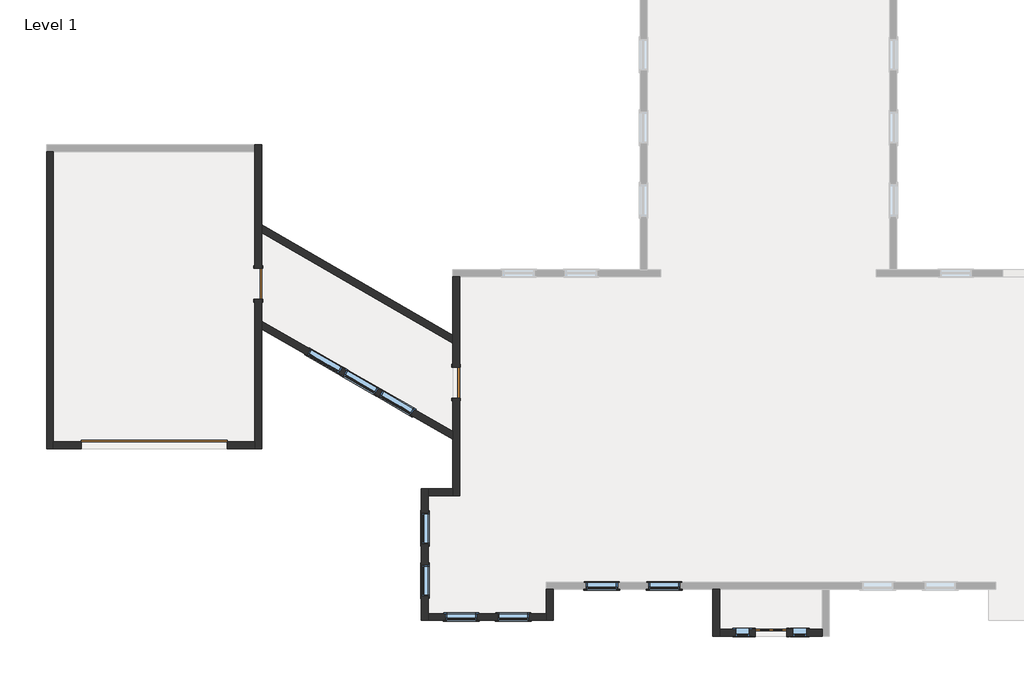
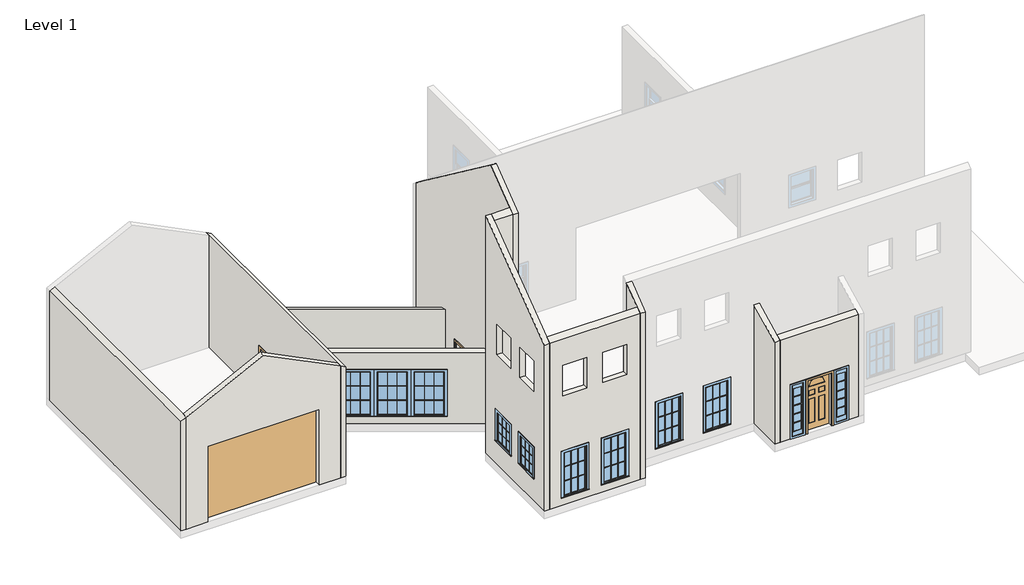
# One storey, part 1 of 2: 12 walls, 11 windows, 4 doors.
"""IFC4 building model written with IfcOpenShell, lengths in millimetres."""

from ifc_helpers import new_model, si_unit, frame, origin, place, context, project, spatial, polyline, outline, extrude, faceted_brep, transform, mapped, element, save
from components import overhead_sectional_14_x_10_8c0ee61c, door_b1a02c97, door_4f2f89b6, casement_3x3_with_trim_8b323df3, casement_3x3_with_trim_29c06734, casement_3x3_with_trim_7d330b5e, window_b28cb548, window_fc224a87

model = new_model("IFC4")

# Units and contexts
model_context = context("Model", 3, world=origin())
ifc_project = project(units=[si_unit("LENGTHUNIT", "METRE", prefix="MILLI")], contexts=[model_context])

# Site, building, storey
site = spatial("IfcSite", under=ifc_project)
building = spatial("IfcBuilding", under=site)
storey = spatial("IfcBuildingStorey", under=building, Name="Level 1", Elevation=0.0)

# Doors
placement = place(None, origin())
overhead_sectional_14_x_10_shape = overhead_sectional_14_x_10_8c0ee61c(model_context)
element("IfcDoor", 1, ObjectType="Overhead Sectional : 14 x 10", at=placement, inside=storey, context=model_context, shape_type="MappedRepresentation", body=[
    mapped(overhead_sectional_14_x_10_shape, transform((-185224.9354666, 11098.6757393, 0.0), x_axis=(-1.0, 0.0, 0.0), y_axis=(0.0, -1.0, 0.0), z_axis=(0.0, 0.0, 1.0))),
])
door_shape = door_b1a02c97(model_context)
element("IfcDoor", 2, ObjectType="Sample Decorative 2 : 36\" x 84\"", at=placement, inside=storey, context=model_context, shape_type="MappedRepresentation", body=[
    mapped(door_shape, transform((-167165.5354666, 5612.2757393, 0.0), x_axis=(1.0, 0.0, 0.0), y_axis=(0.0, 1.0, 0.0), z_axis=(0.0, 0.0, 1.0))),
])
door_2_shape = door_4f2f89b6(model_context)
element("IfcDoor", 3, ObjectType="Sgl Flush : 36\" x 80\"", at=placement, inside=storey, context=model_context, shape_type="MappedRepresentation", body=[
    mapped(door_2_shape, transform((-176385.7354666, 12927.4757393, 0.0), x_axis=(0.0, -1.0, 0.0), y_axis=(1.0, 0.0, 0.0), z_axis=(0.0, 0.0, 1.0))),
])
element("IfcDoor", 4, ObjectType="Sgl Flush : 36\" x 80\"", at=placement, inside=storey, context=model_context, shape_type="MappedRepresentation", body=[
    mapped(door_2_shape, transform((-182176.9354666, 15823.0757393, 0.0), x_axis=(0.0, -1.0, 0.0), y_axis=(1.0, 0.0, 0.0), z_axis=(0.0, 0.0, 1.0))),
])

# Walls
element("IfcWall", 5, ObjectType="Generic - 8\"", at=placement, inside=storey, context=model_context, shape_type="Brep", body=[
    faceted_brep([(-176284.1354666, 9625.4757393, 0.0), (-176284.1354666, 12470.2757393, 0.0), (-176284.1354666, 12470.2757393, 2032.0), (-176284.1354666, 13384.6757393, 2032.0), (-176284.1354666, 13384.6757393, 0.0), (-176284.1354666, 16026.2757393, 0.0), (-176284.1354666, 16026.2757393, 6858.0), (-176284.1354666, 11098.6757393, 10553.7), (-176284.1354666, 9625.4757393, 9448.8), (-176487.3354666, 12470.2757393, 2032.0), (-176487.3354666, 12470.2757393, 0.0), (-176487.3354666, 11507.0303086, 0.0), (-176487.3354666, 11272.3951592, 0.0), (-176487.3354666, 9828.6757393, 0.0), (-176487.3354666, 9625.4757393, 0.0), (-176487.3354666, 9625.4757393, 9448.8), (-176487.3354666, 9828.6757393, 9601.2), (-176487.3354666, 11098.6757393, 10553.7), (-176487.3354666, 16026.2757393, 6858.0), (-176487.3354666, 16026.2757393, 0.0), (-176487.3354666, 14322.6521013, 0.0), (-176487.3354666, 14088.0169519, 0.0), (-176487.3354666, 13384.6757393, 0.0), (-176487.3354666, 13384.6757393, 2032.0)], [[[0, 1, 2, 3, 4, 5, 6, 7, 8]], [[9, 10, 11, 12, 13, 14, 15, 16, 17, 18, 19, 20, 21, 22, 23]], [[14, 13, 12, 11, 10, 1, 0]], [[22, 21, 20, 19, 5, 4]], [[6, 5, 19, 18]], [[0, 8, 15, 14]], [[8, 7, 17, 16, 15]], [[7, 6, 18, 17]], [[2, 1, 10, 9]], [[3, 2, 9, 23]], [[4, 3, 23, 22]]]),
])
element("IfcWall", 6, ObjectType="Generic - 8\"", at=placement, inside=storey, context=model_context, shape_type="Brep", body=[
    faceted_brep([(-177198.5354666, 5967.8757393, 0.0), (-177198.5354666, 6171.0757393, 0.0), (-177198.5354666, 9625.4757393, 0.0), (-177198.5354666, 9828.6757393, 0.0), (-177198.5354666, 9828.6757393, 9601.2), (-177198.5354666, 9625.4757393, 9448.8), (-177198.5354666, 6171.0757393, 6858.0), (-177198.5354666, 5967.8757393, 6705.6), (-177198.5354666, 9117.4757393, 2133.6), (-177198.5354666, 9117.4757393, 914.4), (-177198.5354666, 8203.0757393, 914.4), (-177198.5354666, 8203.0757393, 2133.6), (-177198.5354666, 7593.4757393, 2133.6), (-177198.5354666, 7593.4757393, 914.4), (-177198.5354666, 6679.0757393, 914.4), (-177198.5354666, 6679.0757393, 2133.6), (-177198.5354666, 9117.4757393, 5638.8), (-177198.5354666, 9117.4757393, 4419.6), (-177198.5354666, 8203.0757393, 4419.6), (-177198.5354666, 8203.0757393, 5638.8), (-177198.5354666, 7593.4757393, 5638.8), (-177198.5354666, 7593.4757393, 4419.6), (-177198.5354666, 6679.0757393, 4419.6), (-177198.5354666, 6679.0757393, 5638.8), (-177401.7354666, 5967.8757393, 0.0), (-177401.7354666, 5967.8757393, 6705.6), (-177401.7354666, 9828.6757393, 9601.2), (-177401.7354666, 9828.6757393, 0.0), (-177401.7354666, 9117.4757393, 2133.6), (-177401.7354666, 8203.0757393, 2133.6), (-177401.7354666, 8203.0757393, 914.4), (-177401.7354666, 9117.4757393, 914.4), (-177401.7354666, 7593.4757393, 2133.6), (-177401.7354666, 6679.0757393, 2133.6), (-177401.7354666, 6679.0757393, 914.4), (-177401.7354666, 7593.4757393, 914.4), (-177401.7354666, 9117.4757393, 5638.8), (-177401.7354666, 8203.0757393, 5638.8), (-177401.7354666, 8203.0757393, 4419.6), (-177401.7354666, 9117.4757393, 4419.6), (-177401.7354666, 7593.4757393, 5638.8), (-177401.7354666, 6679.0757393, 5638.8), (-177401.7354666, 6679.0757393, 4419.6), (-177401.7354666, 7593.4757393, 4419.6)], [[[0, 1, 2, 3, 4, 5, 6, 7], [8, 9, 10, 11], [12, 13, 14, 15], [16, 17, 18, 19], [20, 21, 22, 23]], [[24, 25, 26, 27], [28, 29, 30, 31], [32, 33, 34, 35], [36, 37, 38, 39], [40, 41, 42, 43]], [[3, 2, 1, 0, 24, 27]], [[4, 3, 27, 26]], [[0, 7, 25, 24]], [[7, 6, 5, 4, 26, 25]], [[9, 8, 28, 31]], [[10, 9, 31, 30]], [[11, 10, 30, 29]], [[8, 11, 29, 28]], [[13, 12, 32, 35]], [[14, 13, 35, 34]], [[15, 14, 34, 33]], [[12, 15, 33, 32]], [[17, 16, 36, 39]], [[18, 17, 39, 38]], [[19, 18, 38, 37]], [[16, 19, 37, 36]], [[21, 20, 40, 43]], [[22, 21, 43, 42]], [[23, 22, 42, 41]], [[20, 23, 41, 40]]]),
])
element("IfcWall", 7, ObjectType="Generic - 8\"", at=placement, inside=storey, context=model_context, shape_type="SweptSolid", body=[
    extrude(outline(polyline([(9625.4757393, 0.0), (9625.4757393, 9448.8), (9828.6757393, 9601.2), (9828.6757393, 0.0), (9625.4757393, 0.0)])), frame((-177198.5354666, 0.0, 0.0), z_axis=(1.0, 0.0, 0.0), x_axis=(0.0, 1.0, 0.0)), (0.0, 0.0, 1.0), 711.2),
])
element("IfcWall", 8, ObjectType="Generic - 8\"", at=placement, inside=storey, context=model_context, shape_type="Brep", body=[
    faceted_brep([(-173744.1354666, 6882.2757393, 0.0), (-173744.1354666, 6171.0757393, 0.0), (-173744.1354666, 5967.8757393, 0.0), (-173744.1354666, 5967.8757393, 6705.6), (-173744.1354666, 6171.0757393, 6858.0), (-173744.1354666, 6882.2757393, 7391.4), (-173540.9354666, 6882.2757393, 0.0), (-173540.9354666, 6882.2757393, 7391.4), (-173540.9354666, 5967.8757393, 6705.6), (-173540.9354666, 5967.8757393, 0.0)], [[[0, 1, 2, 3, 4, 5]], [[6, 7, 8, 9]], [[2, 1, 0, 6, 9]], [[3, 2, 9, 8]], [[0, 5, 7, 6]], [[5, 4, 3, 8, 7]]]),
])
element("IfcWall", 9, ObjectType="Generic - 8\"", at=placement, inside=storey, context=model_context, shape_type="Brep", body=[
    faceted_brep([(-173744.1354666, 6171.0757393, 0.0), (-177198.5354666, 6171.0757393, 0.0), (-177198.5354666, 6171.0757393, 6858.0), (-173744.1354666, 6171.0757393, 6858.0), (-175166.5354666, 6171.0757393, 5638.8), (-175166.5354666, 6171.0757393, 4419.6), (-174252.1354666, 6171.0757393, 4419.6), (-174252.1354666, 6171.0757393, 5638.8), (-176690.5354666, 6171.0757393, 5638.8), (-176690.5354666, 6171.0757393, 4419.6), (-175776.1354666, 6171.0757393, 4419.6), (-175776.1354666, 6171.0757393, 5638.8), (-175166.5354666, 6171.0757393, 2133.6), (-175166.5354666, 6171.0757393, 304.8), (-174252.1354666, 6171.0757393, 304.8), (-174252.1354666, 6171.0757393, 2133.6), (-176690.5354666, 6171.0757393, 2133.6), (-176690.5354666, 6171.0757393, 304.8), (-175776.1354666, 6171.0757393, 304.8), (-175776.1354666, 6171.0757393, 2133.6), (-173744.1354666, 5967.8757393, 0.0), (-173744.1354666, 5967.8757393, 6705.6), (-177198.5354666, 5967.8757393, 6705.6), (-177198.5354666, 5967.8757393, 0.0), (-175166.5354666, 5967.8757393, 5638.8), (-174252.1354666, 5967.8757393, 5638.8), (-174252.1354666, 5967.8757393, 4419.6), (-175166.5354666, 5967.8757393, 4419.6), (-176690.5354666, 5967.8757393, 5638.8), (-175776.1354666, 5967.8757393, 5638.8), (-175776.1354666, 5967.8757393, 4419.6), (-176690.5354666, 5967.8757393, 4419.6), (-175166.5354666, 5967.8757393, 2133.6), (-174252.1354666, 5967.8757393, 2133.6), (-174252.1354666, 5967.8757393, 304.8), (-175166.5354666, 5967.8757393, 304.8), (-176690.5354666, 5967.8757393, 2133.6), (-175776.1354666, 5967.8757393, 2133.6), (-175776.1354666, 5967.8757393, 304.8), (-176690.5354666, 5967.8757393, 304.8)], [[[0, 1, 2, 3], [4, 5, 6, 7], [8, 9, 10, 11], [12, 13, 14, 15], [16, 17, 18, 19]], [[20, 21, 22, 23], [24, 25, 26, 27], [28, 29, 30, 31], [32, 33, 34, 35], [36, 37, 38, 39]], [[1, 0, 20, 23]], [[0, 3, 21, 20]], [[2, 1, 23, 22]], [[3, 2, 22, 21]], [[5, 4, 24, 27]], [[6, 5, 27, 26]], [[7, 6, 26, 25]], [[4, 7, 25, 24]], [[9, 8, 28, 31]], [[10, 9, 31, 30]], [[11, 10, 30, 29]], [[8, 11, 29, 28]], [[13, 12, 32, 35]], [[14, 13, 35, 34]], [[15, 14, 34, 33]], [[12, 15, 33, 32]], [[17, 16, 36, 39]], [[18, 17, 39, 38]], [[19, 18, 38, 37]], [[16, 19, 37, 36]]]),
])
element("IfcWall", 10, ObjectType="Generic - 8\"", at=placement, inside=storey, context=model_context, shape_type="Brep", body=[
    faceted_brep([(-168867.3354666, 6882.2757393, 0.0), (-168867.3354666, 5510.6757393, 0.0), (-168867.3354666, 5510.6757393, 4114.8), (-168867.3354666, 6882.2757393, 4800.6), (-168664.1354666, 6882.2757393, 0.0), (-168664.1354666, 6882.2757393, 4800.6), (-168664.1354666, 5713.8757393, 4216.4), (-168664.1354666, 5510.6757393, 4114.8), (-168664.1354666, 5510.6757393, 0.0), (-168664.1354666, 5713.8757393, 0.0)], [[[0, 1, 2, 3]], [[4, 5, 6, 7, 8, 9]], [[1, 0, 4, 9, 8]], [[2, 1, 8, 7]], [[0, 3, 5, 4]], [[3, 2, 7, 6, 5]]]),
])
element("IfcWall", 11, ObjectType="Generic - 8\"", at=placement, inside=storey, context=model_context, shape_type="Brep", body=[
    faceted_brep([(-166708.3354666, 5510.6757393, 0.0), (-166530.5354666, 5510.6757393, 0.0), (-166530.5354666, 5510.6757393, 2133.6), (-166124.1354666, 5510.6757393, 2133.6), (-166124.1354666, 5510.6757393, 0.0), (-165666.9354666, 5510.6757393, 0.0), (-165666.9354666, 5510.6757393, 4114.8), (-168664.1354666, 5510.6757393, 4114.8), (-168664.1354666, 5510.6757393, 0.0), (-168206.9354666, 5510.6757393, 0.0), (-168206.9354666, 5510.6757393, 2133.6), (-167800.5354666, 5510.6757393, 2133.6), (-167800.5354666, 5510.6757393, 0.0), (-167622.7354666, 5510.6757393, 0.0), (-167622.7354666, 5510.6757393, 2133.6), (-166708.3354666, 5510.6757393, 2133.6), (-166530.5354666, 5713.8757393, 2133.6), (-166530.5354666, 5713.8757393, 0.0), (-166708.3354666, 5713.8757393, 0.0), (-166708.3354666, 5713.8757393, 2133.6), (-167622.7354666, 5713.8757393, 2133.6), (-167622.7354666, 5713.8757393, 0.0), (-167800.5354666, 5713.8757393, 0.0), (-167800.5354666, 5713.8757393, 2133.6), (-168206.9354666, 5713.8757393, 2133.6), (-168206.9354666, 5713.8757393, 0.0), (-168664.1354666, 5713.8757393, 0.0), (-168664.1354666, 5713.8757393, 4216.4), (-165666.9354666, 5713.8757393, 4216.4), (-165666.9354666, 5713.8757393, 0.0), (-166124.1354666, 5713.8757393, 0.0), (-166124.1354666, 5713.8757393, 2133.6)], [[[0, 1, 2, 3, 4, 5, 6, 7, 8, 9, 10, 11, 12, 13, 14, 15]], [[16, 17, 18, 19, 20, 21, 22, 23, 24, 25, 26, 27, 28, 29, 30, 31]], [[18, 17, 1, 0]], [[13, 12, 22, 21]], [[9, 8, 26, 25]], [[30, 29, 5, 4]], [[8, 7, 27, 26]], [[6, 5, 29, 28]], [[7, 6, 28, 27]], [[19, 18, 0, 15]], [[20, 19, 15, 14]], [[21, 20, 14, 13]], [[23, 22, 12, 11]], [[24, 23, 11, 10]], [[25, 24, 10, 9]], [[2, 1, 17, 16]], [[3, 2, 16, 31]], [[4, 3, 31, 30]]]),
])
element("IfcWall", 12, ObjectType="Generic - 8\"", at=placement, inside=storey, context=model_context, shape_type="Brep", body=[
    faceted_brep([(-188171.3354666, 10997.0757393, 0.0), (-188171.3354666, 11200.2757393, 0.0), (-188171.3354666, 19683.8757393, 0.0), (-188171.3354666, 19683.8757393, 4521.2), (-188171.3354666, 11200.2757393, 4521.2), (-188171.3354666, 10997.0757393, 4521.2), (-188374.5354666, 10997.0757393, 0.0), (-188374.5354666, 10997.0757393, 4419.6), (-188374.5354666, 19683.8757393, 4419.6), (-188374.5354666, 19683.8757393, 0.0)], [[[0, 1, 2, 3, 4, 5]], [[6, 7, 8, 9]], [[2, 1, 0, 6, 9]], [[0, 5, 7, 6]], [[3, 2, 9, 8]], [[5, 4, 3, 8, 7]]]),
])
element("IfcWall", 13, ObjectType="Generic - 8\"", at=placement, inside=storey, context=model_context, shape_type="SweptSolid", body=[
    extrude(outline(polyline([(0.0, -188171.3354666), (0.0, -187358.5354666), (3048.0, -187358.5354666), (3048.0, -183091.3354666), (0.0, -183091.3354666), (0.0, -182278.5354666), (4521.2, -182278.5354666), (5994.4, -185224.9354666), (4521.2, -188171.3354666), (0.0, -188171.3354666)])), frame((0.0, 10997.0757393, 0.0), z_axis=(0.0, 1.0, 0.0), x_axis=(0.0, 0.0, 1.0)), (0.0, 0.0, 1.0), 203.2),
])
element("IfcWall", 14, ObjectType="Generic - 8\"", at=placement, inside=storey, context=model_context, shape_type="Brep", body=[
    faceted_brep([(-182278.5354666, 15365.8757393, 2032.0), (-182278.5354666, 15365.8757393, 0.0), (-182278.5354666, 11200.2757393, 0.0), (-182278.5354666, 10997.0757393, 0.0), (-182278.5354666, 10997.0757393, 4521.2), (-182278.5354666, 11200.2757393, 4521.2), (-182278.5354666, 19683.8757393, 4521.2), (-182278.5354666, 19887.0757393, 4521.2), (-182278.5354666, 19887.0757393, 0.0), (-182278.5354666, 19683.8757393, 0.0), (-182278.5354666, 16280.2757393, 0.0), (-182278.5354666, 16280.2757393, 2032.0), (-182075.3354666, 10997.0757393, 0.0), (-182075.3354666, 14498.6284634, 0.0), (-182075.3354666, 14733.2636128, 0.0), (-182075.3354666, 15365.8757393, 0.0), (-182075.3354666, 15365.8757393, 2032.0), (-182075.3354666, 16280.2757393, 2032.0), (-182075.3354666, 16280.2757393, 0.0), (-182075.3354666, 17314.2502562, 0.0), (-182075.3354666, 17548.8854056, 0.0), (-182075.3354666, 19887.0757393, 0.0), (-182075.3354666, 19887.0757393, 4419.6), (-182075.3354666, 10997.0757393, 4419.6)], [[[0, 1, 2, 3, 4, 5, 6, 7, 8, 9, 10, 11]], [[12, 13, 14, 15, 16, 17, 18, 19, 20, 21, 22, 23]], [[3, 2, 1, 15, 14, 13, 12]], [[10, 9, 8, 21, 20, 19, 18]], [[8, 7, 22, 21]], [[4, 3, 12, 23]], [[7, 6, 5, 4, 23, 22]], [[16, 15, 1, 0]], [[17, 16, 0, 11]], [[18, 17, 11, 10]]]),
])
element("IfcWall", 15, ObjectType="Generic - 8\"", at=placement, inside=storey, context=model_context, shape_type="Brep", body=[
    faceted_brep([(-176487.3354666, 14322.6521013, 0.0), (-182075.3354666, 17548.8854056, 0.0), (-182075.3354666, 17548.8854056, 2850.8499433), (-176487.3354666, 14322.6521013, 2850.8499433), (-176487.3354666, 14088.0169519, 0.0), (-176487.3354666, 14088.0169519, 2903.1013718), (-182075.3354666, 17314.2502562, 2903.1013718), (-182075.3354666, 17314.2502562, 0.0)], [[[0, 1, 2, 3]], [[4, 5, 6, 7]], [[1, 0, 4, 7]], [[0, 3, 5, 4]], [[2, 1, 7, 6]], [[3, 2, 6, 5]]]),
])
element("IfcWall", 16, ObjectType="Generic - 8\"", at=placement, inside=storey, context=model_context, shape_type="Brep", body=[
    faceted_brep([(-176487.3354666, 11507.0303086, 0.0), (-182075.3354666, 14733.2636128, 0.0), (-182075.3354666, 14733.2636128, 2903.1013718), (-176487.3354666, 11507.0303086, 2903.1013718), (-178535.1154909, 12689.3166568, 2133.6), (-178535.1154909, 12689.3166568, 304.8), (-177611.2395902, 12155.9166568, 304.8), (-177611.2395902, 12155.9166568, 2133.6), (-179590.9736632, 13298.9166568, 2133.6), (-179590.9736632, 13298.9166568, 304.8), (-178667.0977625, 12765.5166568, 304.8), (-178667.0977625, 12765.5166568, 2133.6), (-180646.8318355, 13908.5166568, 2133.6), (-180646.8318355, 13908.5166568, 304.8), (-179722.9559347, 13375.1166568, 304.8), (-179722.9559347, 13375.1166568, 2133.6), (-176487.3354666, 11272.3951592, 0.0), (-176487.3354666, 11272.3951592, 2850.8499433), (-182075.3354666, 14498.6284634, 2850.8499433), (-182075.3354666, 14498.6284634, 0.0), (-178636.7154909, 12513.3402948, 2133.6), (-177712.8395902, 11979.9402948, 2133.6), (-177712.8395902, 11979.9402948, 304.8), (-178636.7154909, 12513.3402948, 304.8), (-179692.5736632, 13122.9402948, 2133.6), (-178768.6977625, 12589.5402948, 2133.6), (-178768.6977625, 12589.5402948, 304.8), (-179692.5736632, 13122.9402948, 304.8), (-180748.4318355, 13732.5402948, 2133.6), (-179824.5559347, 13199.1402948, 2133.6), (-179824.5559347, 13199.1402948, 304.8), (-180748.4318355, 13732.5402948, 304.8)], [[[0, 1, 2, 3], [4, 5, 6, 7], [8, 9, 10, 11], [12, 13, 14, 15]], [[16, 17, 18, 19], [20, 21, 22, 23], [24, 25, 26, 27], [28, 29, 30, 31]], [[1, 0, 16, 19]], [[0, 3, 17, 16]], [[2, 1, 19, 18]], [[3, 2, 18, 17]], [[5, 4, 20, 23]], [[6, 5, 23, 22]], [[7, 6, 22, 21]], [[4, 7, 21, 20]], [[9, 8, 24, 27]], [[10, 9, 27, 26]], [[11, 10, 26, 25]], [[8, 11, 25, 24]], [[13, 12, 28, 31]], [[14, 13, 31, 30]], [[15, 14, 30, 29]], [[12, 15, 29, 28]]]),
])

# Windows
casement_3x3_with_trim_shape = casement_3x3_with_trim_8b323df3(model_context)
element("IfcWindow", 17, ObjectType="Casement 3x3 with Trim : 36\"w x 72\"h", at=placement, inside=storey, context=model_context, shape_type="MappedRepresentation", body=[
    mapped(casement_3x3_with_trim_shape, transform((-176233.3354666, 6069.4757393, 0.0), x_axis=(-1.0, 0.0, 0.0), y_axis=(0.0, -1.0, 0.0), z_axis=(0.0, 0.0, 1.0))),
])
element("IfcWindow", 18, ObjectType="Casement 3x3 with Trim : 36\"w x 72\"h", at=placement, inside=storey, context=model_context, shape_type="MappedRepresentation", body=[
    mapped(casement_3x3_with_trim_shape, transform((-174709.3354666, 6069.4757393, 0.0), x_axis=(-1.0, 0.0, 0.0), y_axis=(0.0, -1.0, 0.0), z_axis=(0.0, 0.0, 1.0))),
])
element("IfcWindow", 19, ObjectType="Casement 3x3 with Trim : 36\"w x 72\"h", at=placement, inside=storey, context=model_context, shape_type="MappedRepresentation", body=[
    mapped(casement_3x3_with_trim_shape, transform((-172118.5354666, 6983.8757393, 0.0), x_axis=(-1.0, 0.0, 0.0), y_axis=(0.0, -1.0, 0.0), z_axis=(0.0, 0.0, 1.0))),
])
element("IfcWindow", 20, ObjectType="Casement 3x3 with Trim : 36\"w x 72\"h", at=placement, inside=storey, context=model_context, shape_type="MappedRepresentation", body=[
    mapped(casement_3x3_with_trim_shape, transform((-170289.7354666, 6983.8757393, 0.0), x_axis=(-1.0, 0.0, 0.0), y_axis=(0.0, -1.0, 0.0), z_axis=(0.0, 0.0, 1.0))),
])
casement_3x3_with_trim_2_shape = casement_3x3_with_trim_29c06734(model_context)
element("IfcWindow", 21, ObjectType="Casement 3x3 with Trim : 36\"w x 48\"h", at=placement, inside=storey, context=model_context, shape_type="MappedRepresentation", body=[
    mapped(casement_3x3_with_trim_2_shape, transform((-177300.1354666, 7136.2757393, 0.0), x_axis=(0.0, 1.0, 0.0), y_axis=(-1.0, 0.0, 0.0), z_axis=(0.0, 0.0, 1.0))),
])
element("IfcWindow", 22, ObjectType="Casement 3x3 with Trim : 36\"w x 48\"h", at=placement, inside=storey, context=model_context, shape_type="MappedRepresentation", body=[
    mapped(casement_3x3_with_trim_2_shape, transform((-177300.1354666, 8660.2757393, 0.0), x_axis=(0.0, 1.0, 0.0), y_axis=(-1.0, 0.0, 0.0), z_axis=(0.0, 0.0, 1.0))),
])
casement_3x3_with_trim_3_shape = casement_3x3_with_trim_7d330b5e(model_context)
element("IfcWindow", 23, ObjectType="Casement 3x3 with Trim : 48\"w x 72\"h", at=placement, inside=storey, context=model_context, shape_type="MappedRepresentation", body=[
    mapped(casement_3x3_with_trim_3_shape, transform((-180235.6938851, 13553.8284758, 0.0), x_axis=(-0.8660254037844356, 0.5000000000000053, 0.0), y_axis=(-0.5000000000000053, -0.8660254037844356, 0.0), z_axis=(0.0, 0.0, 1.0))),
])
element("IfcWindow", 24, ObjectType="Casement 3x3 with Trim : 48\"w x 72\"h", at=placement, inside=storey, context=model_context, shape_type="MappedRepresentation", body=[
    mapped(casement_3x3_with_trim_3_shape, transform((-179179.8357128, 12944.2284758, 0.0), x_axis=(-0.8660254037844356, 0.5000000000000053, 0.0), y_axis=(-0.5000000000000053, -0.8660254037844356, 0.0), z_axis=(0.0, 0.0, 1.0))),
])
element("IfcWindow", 25, ObjectType="Casement 3x3 with Trim : 48\"w x 72\"h", at=placement, inside=storey, context=model_context, shape_type="MappedRepresentation", body=[
    mapped(casement_3x3_with_trim_3_shape, transform((-178123.9775405, 12334.6284758, 0.0), x_axis=(-0.8660254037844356, 0.5000000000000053, 0.0), y_axis=(-0.5000000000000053, -0.8660254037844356, 0.0), z_axis=(0.0, 0.0, 1.0))),
])
window_shape = window_b28cb548(model_context)
element("IfcWindow", 26, ObjectType="Sidelights 1 : 16\" x 84\"", at=placement, inside=storey, context=model_context, shape_type="MappedRepresentation", body=[
    mapped(window_shape, transform((-168257.7354666, 5612.2757393, 0.0), x_axis=(1.0, 0.0, 0.0), y_axis=(0.0, 1.0, 0.0), z_axis=(0.0, 0.0, 1.0))),
])
window_2_shape = window_fc224a87(model_context)
element("IfcWindow", 27, ObjectType="Sidelights 1 : 16\" x 84\"", at=placement, inside=storey, context=model_context, shape_type="MappedRepresentation", body=[
    mapped(window_2_shape, transform((-166073.3354666, 5612.2757393, 0.0), x_axis=(-1.0, 0.0, 0.0), y_axis=(0.0, -1.0, 0.0), z_axis=(0.0, 0.0, 1.0))),
])

save(model, "model.ifc")
